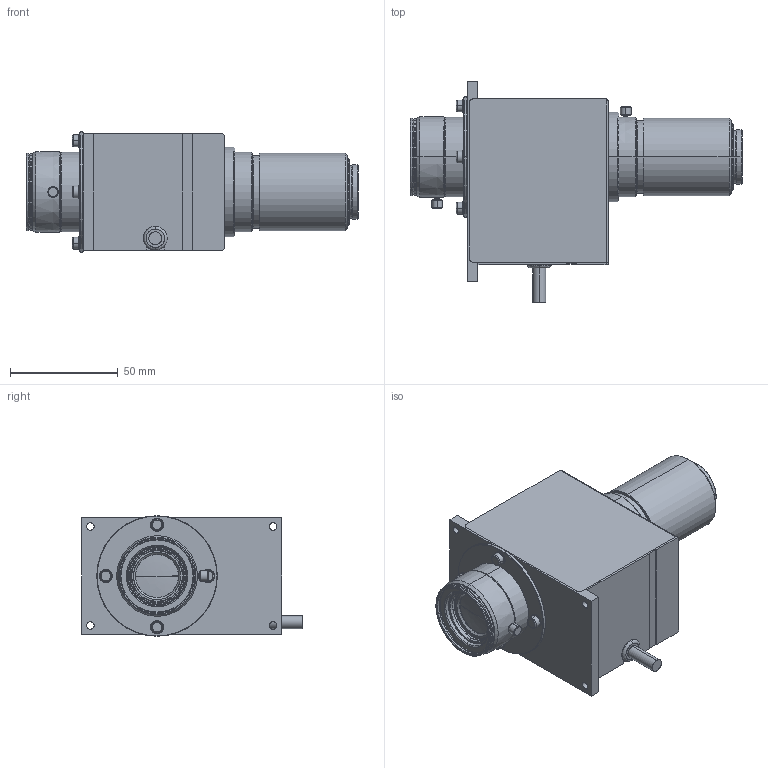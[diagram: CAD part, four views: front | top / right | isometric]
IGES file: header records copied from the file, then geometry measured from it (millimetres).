
Start section: SolidWorks IGES file using analytic representation for surfaces
Global section: file name: \\192.168.200.11\Development\3 製品\1 標準品\04 ズームレンズ\04 6x (VSZ-0745-MR VSZ-0530-MR series)\VSZ-0530-MR\10.3D外観モデル\VSZ-0530-MR.IGS; native system: SolidWorks 2017; preprocessor: SolidWorks 2017; author: uchikawa_vst; date: 170525.200401; units: millimetre
Bounding box: 154.29 x 102.5 x 56 mm (x, y, z)
Surface area: 101994.6 mm2 (no closed solid volume)
Topology: 0 solids, 0 shells, 395 faces, 7764 edges, 7762 vertices
Faces by surface type: revolution 263, bspline 132
